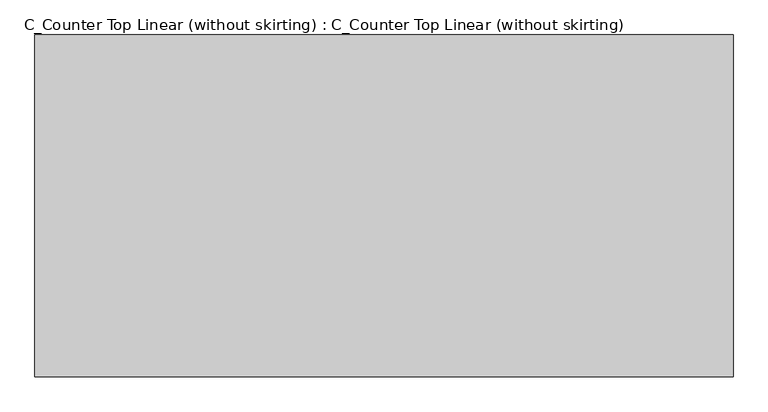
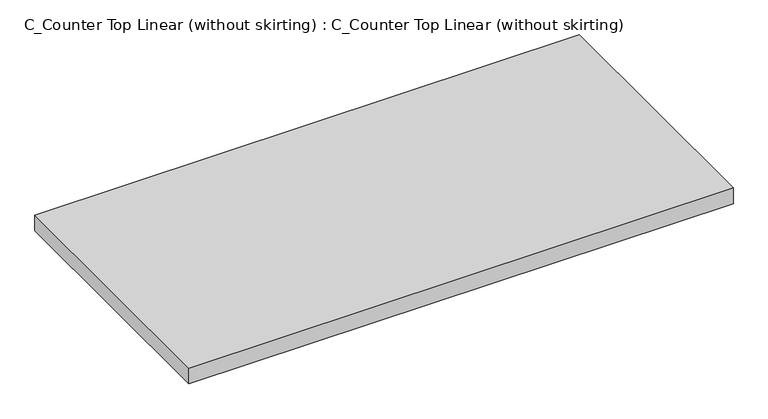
"""IFC4 building model written with IfcOpenShell, lengths in millimetres: furniture geometry, C_Counter Top Linear (without skirting) : C_Counter Top Linear (without skirting)."""

from ifc_helpers import new_model, si_unit, origin, origin_with_axes, place, context, project, spatial, polyline, outline, extrude, source, transform, mapped, element, save


def c_counter_top_linear_without_skirting_c_counter_top_linear_65480b5c(model_context):
    return source(origin(), model_context, "Body", "SweptSolid", [
        extrude(outline(polyline([(622.3496094, 0.0), (-622.3496094, 0.0), (-622.3496094, 609.6), (622.3496094, 609.6), (622.3496094, 0.0)])), origin_with_axes(), (0.0, 0.0, 1.0), 38.1),
    ])


if __name__ == "__main__":
    model = new_model("IFC4")
    model_context = context("Model", 3, world=origin())
    ifc_project = project(units=[si_unit("LENGTHUNIT", "METRE", prefix="MILLI")], contexts=[model_context])
    site = spatial("IfcSite", under=ifc_project)
    building = spatial("IfcBuilding", under=site)
    placement = place(None, origin())
    c_counter_top_linear_without_skirting_c_counter_top_linear_shape = c_counter_top_linear_without_skirting_c_counter_top_linear_65480b5c(model_context)
    element("IfcFurniture", 1, ObjectType="C_Counter Top Linear (without skirting) : C_Counter Top Linear (without skirting)", at=placement, inside=building, context=model_context, shape_type="MappedRepresentation", body=[
        mapped(c_counter_top_linear_without_skirting_c_counter_top_linear_shape, transform((0.0, 0.0, 0.0), x_axis=(1.0, 0.0, 0.0), y_axis=(0.0, 1.0, 0.0), z_axis=(0.0, 0.0, 1.0))),
    ])
    save(model, "model.ifc")
